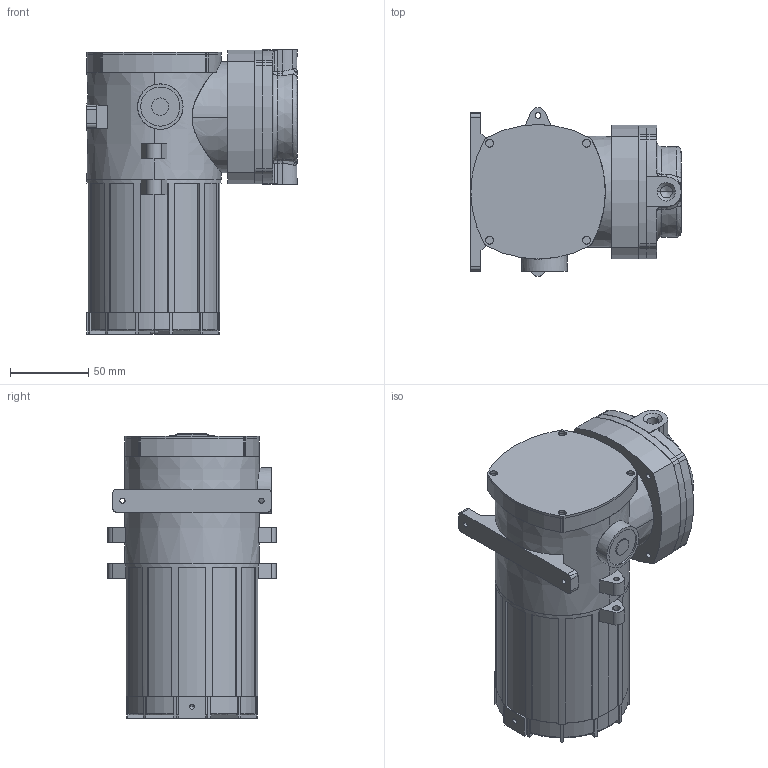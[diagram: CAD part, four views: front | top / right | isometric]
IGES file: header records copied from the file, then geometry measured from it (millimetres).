
Global section: file name: C:\Documents and Settings\Administrator\Desktop\Transfer Temp\compressor.igs; native system: AutoDesk Inventor R2.0 ; preprocessor: AutoDesk Inventor Iges Exporter R2.0; author: No Author specified; organization: No Organization specified; date: 20020115.202326; units: millimetre
Bounding box: 134.5 x 108 x 181.75 mm (x, y, z)
Surface area: 156844.9 mm2 (no closed solid volume)
Topology: 0 solids, 0 shells, 525 faces, 2846 edges, 2828 vertices
Faces by surface type: revolution 279, bspline 246
